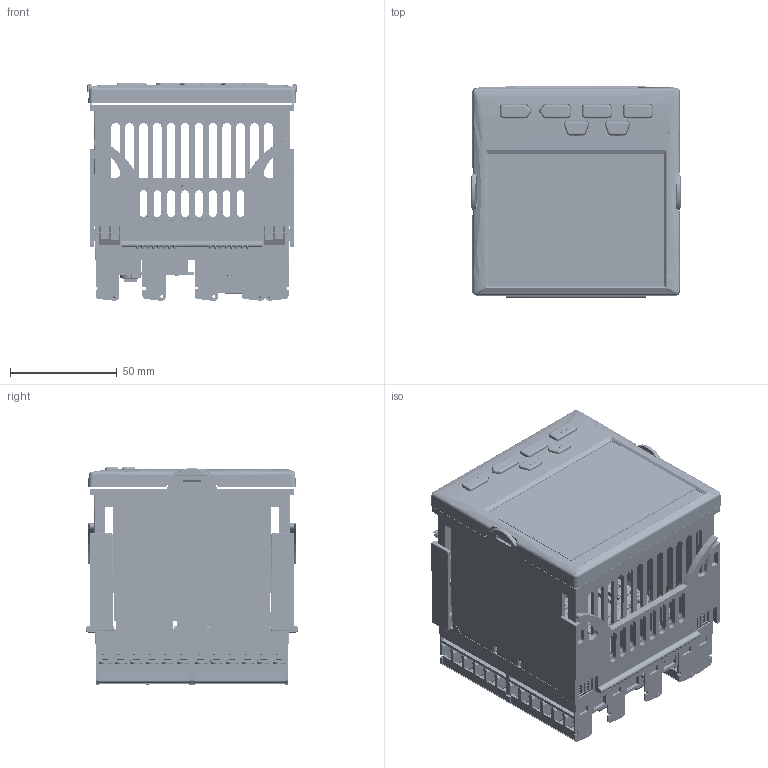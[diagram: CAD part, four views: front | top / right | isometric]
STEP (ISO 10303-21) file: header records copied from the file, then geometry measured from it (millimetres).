
FILE_DESCRIPTION((''),'2;1');
FILE_NAME('HC033054','2017-06-30T',('SESA387798'),(''),'PRO/ENGINEER BY PARAMETRIC TECHNOLOGY CORPORATION, 2010180','PRO/ENGINEER BY PARAMETRIC TECHNOLOGY CORPORATION, 2010180','');
FILE_SCHEMA(('CONFIG_CONTROL_DESIGN'));
Products named in the file (1): HC033054
Bounding box: 97.9 x 99.54 x 101.98 mm (x, y, z)
Volume: 137215.8 mm3; surface area: 196417.2 mm2
Topology: 14 solids, 91 shells, 16038 faces, 44656 edges, 28544 vertices
Faces by surface type: plane 12388, cylinder 2517, cone 423, bspline 397, extrusion 129, torus 118, sphere 66
Entity records: 542240 total; most frequent: CARTESIAN_POINT 136118, ORIENTED_EDGE 89212, DIRECTION 77869, EDGE_CURVE 44606, VECTOR 33631, LINE 33502, VERTEX_POINT 28544, AXIS2_PLACEMENT_3D 22119
